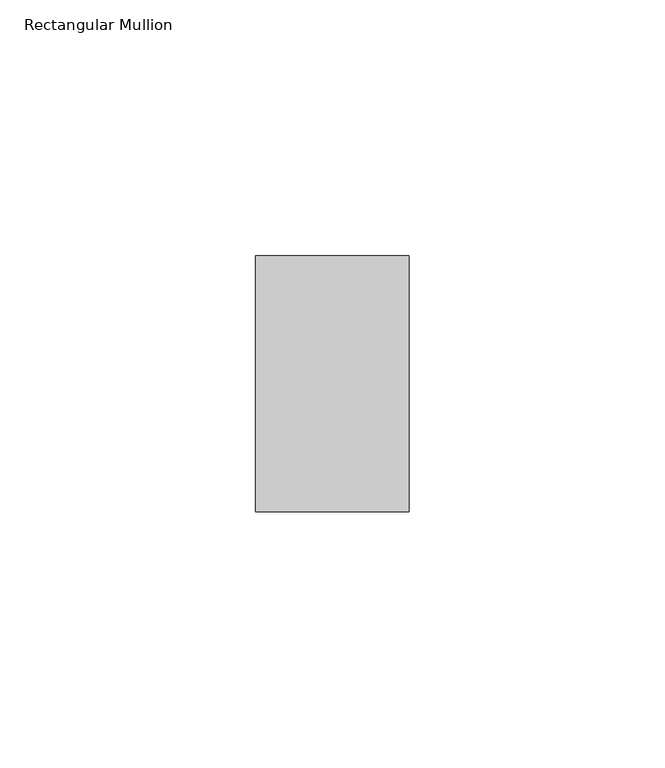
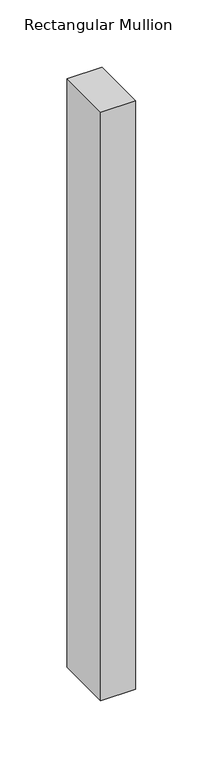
"""IFC4 building model written with IfcOpenShell, lengths in millimetres: member geometry, Rectangular Mullion : ARQ_TV_MULL_50x30mm."""

from ifc_helpers import new_model, si_unit, frame, origin, place, context, project, spatial, polyline, outline, extrude, source, transform, mapped, element, save


def rectangular_mullion_f7ba8490(model_context):
    return source(origin(), model_context, "Body", "SweptSolid", [
        extrude(outline(polyline([(0.0, 25.0), (0.0, -25.0), (-30.0, -25.0), (-30.0, 25.0), (0.0, 25.0)])), frame((0.0, 0.0, -533.3333333), z_axis=(0.0, 0.0, 1.0), x_axis=(1.0, 0.0, 0.0)), (0.0, 0.0, 1.0), 533.3333333),
    ])


if __name__ == "__main__":
    model = new_model("IFC4")
    model_context = context("Model", 3, world=origin())
    ifc_project = project(units=[si_unit("LENGTHUNIT", "METRE", prefix="MILLI")], contexts=[model_context])
    site = spatial("IfcSite", under=ifc_project)
    building = spatial("IfcBuilding", under=site)
    placement = place(None, origin())
    rectangular_mullion_shape = rectangular_mullion_f7ba8490(model_context)
    element("IfcMember", 1, ObjectType="Rectangular Mullion : ARQ_TV_MULL_50x30mm", at=placement, inside=building, context=model_context, shape_type="MappedRepresentation", body=[
        mapped(rectangular_mullion_shape, transform((0.0, 0.0, 0.0), x_axis=(1.0, 0.0, 0.0), y_axis=(0.0, 1.0, 0.0), z_axis=(0.0, 0.0, 1.0))),
    ])
    save(model, "model.ifc")
